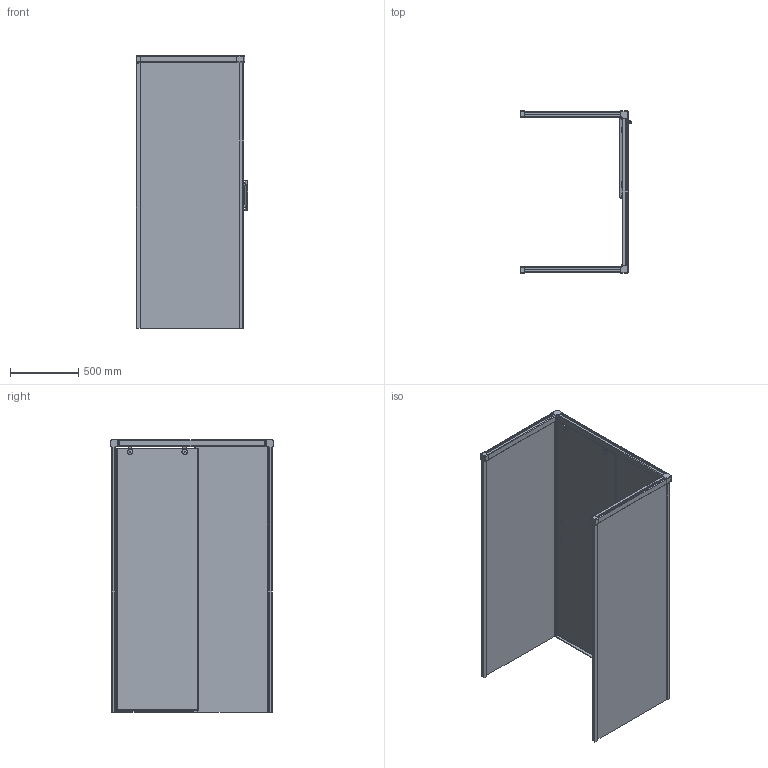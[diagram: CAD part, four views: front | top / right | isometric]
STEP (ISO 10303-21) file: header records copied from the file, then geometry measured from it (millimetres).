
FILE_DESCRIPTION(/* description */ (''),/* implementation_level */ '2;1');
FILE_NAME(/* name */ 'E:\Работа\Сергей\Душевые кабинки\! Работа\!!! Slide\SLIDE RECTAN GK-864U\SLIDE RECTAN GK-864U левая модель\SLIDE RECTAN GK-864U ЛЕВАЯ-3D.stp',/* time_stamp */ '2018-03-26T19:10:42+03:00',/* author */ ('PC'),/* organization */ (''),/* preprocessor_version */ 'ST-DEVELOPER v15.2',/* originating_system */ 'Autodesk Inventor 2014',/* authorisation */ '');
FILE_SCHEMA (('AUTOMOTIVE_DESIGN { 1 0 10303 214 3 1 1 }'));
Length unit declared in the file: millimetre
Products named in the file (1): SLIDE RECTAN GK-864U ЛЕВАЯ-3D
Bounding box: 816.4 x 1190 x 2001.5 mm (x, y, z)
Volume: 50767721.9 mm3; surface area: 11734846.3 mm2
Topology: 2 solids, 4 shells, 737 faces, 1987 edges, 1268 vertices
Faces by surface type: plane 459, cylinder 222, torus 32, bspline 20, cone 4
Full cylindrical faces by diameter (mm): 20 x3, 37 x4, 42 x4
Entity records: 24132 total; most frequent: CARTESIAN_POINT 4846, ORIENTED_EDGE 3920, DIRECTION 3788, EDGE_CURVE 1958, LINE 1370, VECTOR 1370, VERTEX_POINT 1260, AXIS2_PLACEMENT_3D 1209
